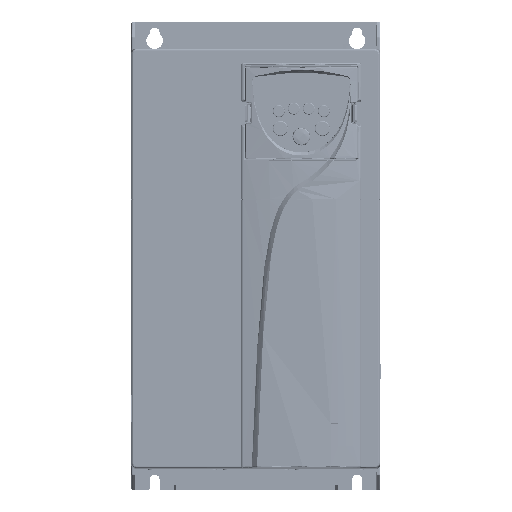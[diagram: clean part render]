
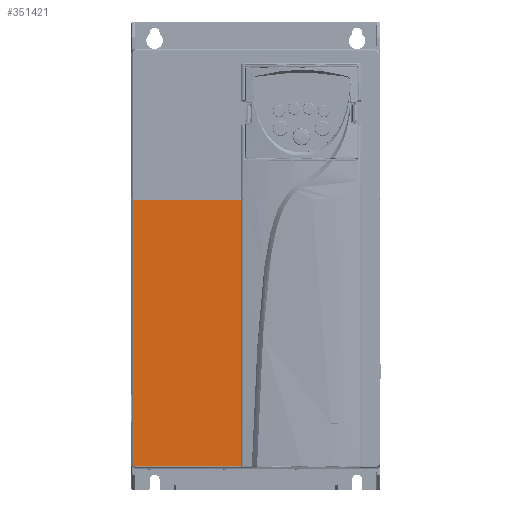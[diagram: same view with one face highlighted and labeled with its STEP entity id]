
A CAD part, top view. The second image highlights one B-rep face of the part: STEP entity #351421.
In plain terms, the highlighted planar face has unit normal (0, 0, 1) as drawn and (0, 1, 0) by its records, which use the part's own axes.
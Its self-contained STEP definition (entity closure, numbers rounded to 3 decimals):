
#684 =( BOUNDED_CURVE ( )  B_SPLINE_CURVE ( 3, ( #198766, #252548, #313555, #224714 ),
 .UNSPECIFIED., .F., .F. ) 
 B_SPLINE_CURVE_WITH_KNOTS ( ( 4, 4 ),
 ( 5.498, 5.532 ),
 .UNSPECIFIED. ) 
 CURVE ( )  GEOMETRIC_REPRESENTATION_ITEM ( )  RATIONAL_B_SPLINE_CURVE ( ( 1., 1., 1., 1. ) ) 
 REPRESENTATION_ITEM ( '' )  );
#2603 = EDGE_LOOP ( 'NONE', ( #21737, #62987, #155322, #6568, #284934, #116667 ) ) ;
#5829 = VECTOR ( 'NONE', #19524, 1000. ) ;
#5865 = DIRECTION ( 'NONE',  ( 1., 0., 0. ) ) ;
#6568 = ORIENTED_EDGE ( 'NONE', *, *, #77858, .T. ) ;
#12813 = EDGE_CURVE ( 'NONE', #312788, #273680, #684, .T. ) ;
#18319 = VERTEX_POINT ( 'NONE', #63609 ) ;
#19524 = DIRECTION ( 'NONE',  ( 0., 0., 1. ) ) ;
#21737 = ORIENTED_EDGE ( 'NONE', *, *, #25457, .T. ) ;
#25457 = EDGE_CURVE ( 'NONE', #18319, #145027, #201247, .T. ) ;
#41830 = LINE ( 'NONE', #326995, #5829 ) ;
#45346 = CARTESIAN_POINT ( 'NONE',  ( -81.56, 183.3, 137.136 ) ) ;
#47175 = CARTESIAN_POINT ( 'NONE',  ( -80.816, 183.3, 138.237 ) ) ;
#62987 = ORIENTED_EDGE ( 'NONE', *, *, #236834, .T. ) ;
#63609 = CARTESIAN_POINT ( 'NONE',  ( -9.6, 183.3, -39. ) ) ;
#71356 = VERTEX_POINT ( 'NONE', #340731 ) ;
#77858 = EDGE_CURVE ( 'NONE', #340362, #273680, #318822, .T. ) ;
#78653 = CARTESIAN_POINT ( 'NONE',  ( -79.903, 183.3, 138.622 ) ) ;
#80479 = CARTESIAN_POINT ( 'NONE',  ( -80.963, 183.3, 138.113 ) ) ;
#86490 = CARTESIAN_POINT ( 'NONE',  ( 190.2, 183.3, -39. ) ) ;
#90155 = DIRECTION ( 'NONE',  ( -1., 0., 0. ) ) ;
#99350 = VECTOR ( 'NONE', #5865, 1000. ) ;
#101010 = CARTESIAN_POINT ( 'NONE',  ( -81.375, 183.3, 137.621 ) ) ;
#104654 = CARTESIAN_POINT ( 'NONE',  ( -80.626, 183.3, 138.355 ) ) ;
#106468 = CARTESIAN_POINT ( 'NONE',  ( -80.541, 183.3, 138.4 ) ) ;
#107811 = CARTESIAN_POINT ( 'NONE',  ( -79.623, 183.3, 138.622 ) ) ;
#116667 = ORIENTED_EDGE ( 'NONE', *, *, #325234, .T. ) ;
#123345 = CARTESIAN_POINT ( 'NONE',  ( -81.622, 183.3, 136.755 ) ) ;
#123395 = AXIS2_PLACEMENT_3D ( 'NONE', #195621, #249388, #140087 ) ;
#128051 = LINE ( 'NONE', #129873, #132843 ) ;
#129873 = CARTESIAN_POINT ( 'NONE',  ( -9.6, 183.3, -160.6 ) ) ;
#132451 = CARTESIAN_POINT ( 'NONE',  ( -81.522, 183.3, 137.262 ) ) ;
#132843 = VECTOR ( 'NONE', #211345, 1000. ) ;
#136091 = CARTESIAN_POINT ( 'NONE',  ( -80.169, 183.3, 138.566 ) ) ;
#140087 = DIRECTION ( 'NONE',  ( 0., 0., 1. ) ) ;
#145027 = VERTEX_POINT ( 'NONE', #213957 ) ;
#155322 = ORIENTED_EDGE ( 'NONE', *, *, #311138, .T. ) ;
#172649 = CARTESIAN_POINT ( 'NONE',  ( -9.6, 183.3, 138.589 ) ) ;
#195621 = CARTESIAN_POINT ( 'NONE',  ( 190.2, 183.3, -160.6 ) ) ;
#198766 = CARTESIAN_POINT ( 'NONE',  ( -9.6, 183.3, 138.589 ) ) ;
#201247 = LINE ( 'NONE', #86490, #347969 ) ;
#211345 = DIRECTION ( 'NONE',  ( 0., 0., -1. ) ) ;
#213957 = CARTESIAN_POINT ( 'NONE',  ( -81.622, 183.3, -39. ) ) ;
#219372 = CARTESIAN_POINT ( 'NONE',  ( -79.623, 183.3, 138.622 ) ) ;
#219730 = PLANE ( 'NONE',  #123395 ) ;
#224714 = CARTESIAN_POINT ( 'NONE',  ( -9.599, 183.3, 138.622 ) ) ;
#236254 = CARTESIAN_POINT ( 'NONE',  ( -81.61, 183.3, 136.884 ) ) ;
#236834 = EDGE_CURVE ( 'NONE', #145027, #71356, #41830, .T. ) ;
#238915 = B_SPLINE_CURVE_WITH_KNOTS ( 'NONE', 3,
 ( #347368, #123345, #236254, #45346, #132451, #101010, #245362, #80479, #47175, #104654, #106468, #249029, #276817, #136091, #78653, #219372 ),
 .UNSPECIFIED., .F., .F.,
 ( 4, 2, 2, 2, 1, 1, 2, 2, 4 ),
 ( 0., 0.125, 0.25, 0.5, 0.625, 0.688, 0.719, 0.75, 1. ),
 .UNSPECIFIED. ) ;
#245362 = CARTESIAN_POINT ( 'NONE',  ( -81.235, 183.3, 137.834 ) ) ;
#249029 = CARTESIAN_POINT ( 'NONE',  ( -80.483, 183.3, 138.429 ) ) ;
#249388 = DIRECTION ( 'NONE',  ( 0., 1., 0. ) ) ;
#252548 = CARTESIAN_POINT ( 'NONE',  ( -9.6, 183.3, 138.6 ) ) ;
#259309 = CARTESIAN_POINT ( 'NONE',  ( -9.599, 183.3, 138.622 ) ) ;
#273680 = VERTEX_POINT ( 'NONE', #259309 ) ;
#276817 = CARTESIAN_POINT ( 'NONE',  ( -80.455, 183.3, 138.441 ) ) ;
#284934 = ORIENTED_EDGE ( 'NONE', *, *, #12813, .F. ) ;
#291046 = CARTESIAN_POINT ( 'NONE',  ( 190.2, 183.3, 138.622 ) ) ;
#311138 = EDGE_CURVE ( 'NONE', #71356, #340362, #238915, .T. ) ;
#312788 = VERTEX_POINT ( 'NONE', #172649 ) ;
#313555 = CARTESIAN_POINT ( 'NONE',  ( -9.6, 183.3, 138.611 ) ) ;
#318822 = LINE ( 'NONE', #291046, #99350 ) ;
#325234 = EDGE_CURVE ( 'NONE', #312788, #18319, #128051, .T. ) ;
#326995 = CARTESIAN_POINT ( 'NONE',  ( -81.622, 183.3, -160.6 ) ) ;
#330895 = FACE_OUTER_BOUND ( 'NONE', #2603, .T. ) ;
#340362 = VERTEX_POINT ( 'NONE', #107811 ) ;
#340731 = CARTESIAN_POINT ( 'NONE',  ( -81.622, 183.3, 136.623 ) ) ;
#347368 = CARTESIAN_POINT ( 'NONE',  ( -81.622, 183.3, 136.623 ) ) ;
#347969 = VECTOR ( 'NONE', #90155, 1000. ) ;
#351421 = ADVANCED_FACE ( 'NONE', ( #330895 ), #219730, .T. ) ;
